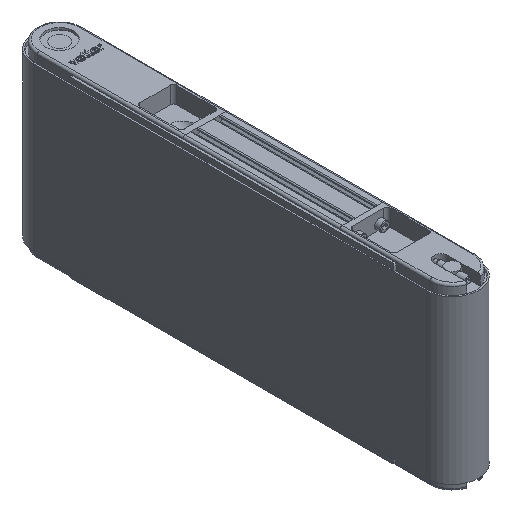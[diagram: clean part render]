
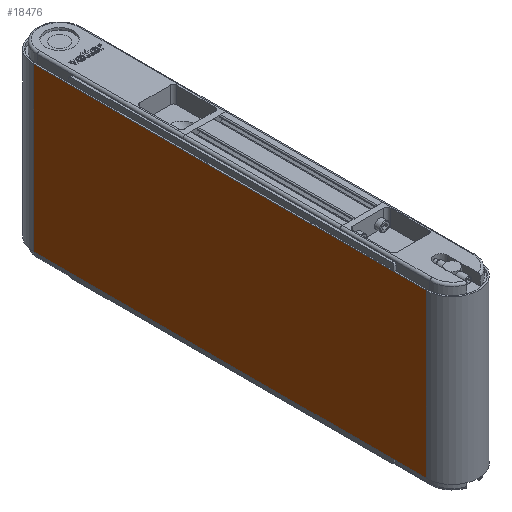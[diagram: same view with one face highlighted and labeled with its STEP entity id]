
A CAD part, isometric view. The second image highlights one B-rep face of the part: STEP entity #18476.
In plain terms, the highlighted planar face has unit normal (-1, 0, 0).
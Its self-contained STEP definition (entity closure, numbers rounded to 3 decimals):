
#1896=FACE_OUTER_BOUND('',#2901,.T.);
#2901=EDGE_LOOP('',(#12434,#12435,#12436,#12437));
#4167=LINE('',#27124,#5659);
#4168=LINE('',#27129,#5660);
#4170=LINE('',#27133,#5662);
#4171=LINE('',#27134,#5663);
#5659=VECTOR('',#22230,10.);
#5660=VECTOR('',#22235,10.);
#5662=VECTOR('',#22239,10.);
#5663=VECTOR('',#22240,10.);
#7313=VERTEX_POINT('',#27118);
#7315=VERTEX_POINT('',#27122);
#7317=VERTEX_POINT('',#27127);
#7318=VERTEX_POINT('',#27132);
#9322=EDGE_CURVE('',#7313,#7315,#4167,.T.);
#9324=EDGE_CURVE('',#7317,#7315,#4168,.T.);
#9326=EDGE_CURVE('',#7317,#7318,#4170,.T.);
#9327=EDGE_CURVE('',#7318,#7313,#4171,.T.);
#12434=ORIENTED_EDGE('',*,*,#9326,.T.);
#12435=ORIENTED_EDGE('',*,*,#9327,.T.);
#12436=ORIENTED_EDGE('',*,*,#9322,.T.);
#12437=ORIENTED_EDGE('',*,*,#9324,.F.);
#16882=PLANE('',#19739);
#18476=ADVANCED_FACE('',(#1896),#16882,.T.);
#19739=AXIS2_PLACEMENT_3D('',#27131,#22237,#22238);
#22230=DIRECTION('',(0.,1.,0.));
#22235=DIRECTION('',(0.,0.,1.));
#22237=DIRECTION('center_axis',(-1.,0.,0.));
#22238=DIRECTION('ref_axis',(0.,0.,1.));
#22239=DIRECTION('',(0.,-1.,0.));
#22240=DIRECTION('',(0.,0.,1.));
#27118=CARTESIAN_POINT('',(-23.3,-220.,72.5));
#27122=CARTESIAN_POINT('',(-23.3,130.,72.5));
#27124=CARTESIAN_POINT('',(-23.3,130.,72.5));
#27127=CARTESIAN_POINT('',(-23.3,130.,-72.5));
#27129=CARTESIAN_POINT('',(-23.3,130.,0.));
#27131=CARTESIAN_POINT('Origin',(-23.3,130.,0.));
#27132=CARTESIAN_POINT('',(-23.3,-220.,-72.5));
#27133=CARTESIAN_POINT('',(-23.3,130.,-72.5));
#27134=CARTESIAN_POINT('',(-23.3,-220.,0.));
